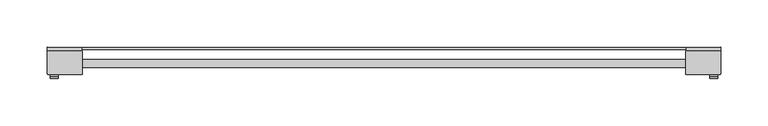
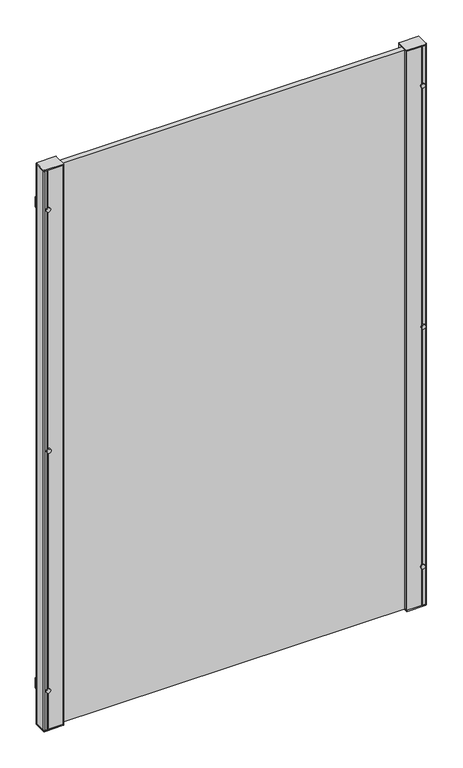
"""IFC4 building model written with IfcOpenShell, lengths in millimetres: railing geometry, F-Line Gotland 1,1m."""

from ifc_helpers import new_model, si_unit, point, frame, frame_2d, origin, place, context, project, spatial, polyline, circle_curve, trimmed, segment, composite_curve, outline, extrude, source, transform, mapped, element, save
from ifc_brep_helpers import plane_surface, cylinder_surface, advanced_brep


def railing_7a961b98(model_context):
    return source(origin(), model_context, "Body", "SolidModel", [
        extrude(outline(polyline([(-8389.9452678, -1855.606973), (-8389.9452678, -1853.7432901), (-7709.9452678, -1853.7432901), (-7709.9452678, -1855.606973), (-8389.9452678, -1855.606973)])), frame((0.0, 0.0, 500.0), z_axis=(0.0, 0.0, 1.0), x_axis=(1.0, 0.0, 0.0)), (0.0, 0.0, 1.0), 1.1703418),
        extrude(outline(polyline([(-8389.9452678, -1875.0913559), (-8389.9452678, -1866.3313559), (-7709.9452678, -1866.3313559), (-7709.9452678, -1875.0913559), (-8389.9452678, -1875.0913559)])), frame((0.0, 0.0, 500.0), z_axis=(0.0, 0.0, 1.0), x_axis=(1.0, 0.0, 0.0)), (0.0, 0.0, 1.0), 1099.0),
        extrude(outline(composite_curve([segment(trimmed(circle_curve(frame_2d((0.0, 4.0)), 4.0), [point((0.0, 8.0))], [point((0.0, 0.0))], False, "CARTESIAN"), True, "CONTINUOUS"), segment(trimmed(circle_curve(frame_2d((0.0, 4.0)), 4.0), [point((0.0, 0.0))], [point((0.0, 8.0))], False, "CARTESIAN"), True, "CONTINUOUS")], self_intersect=False)), frame((-7705.3241105, -1886.2113714, 1050.5851709), z_axis=(0.007850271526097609, 0.9999691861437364, 0.0), x_axis=(0.0, 0.0, 1.0)), (0.0, 0.0, 1.0), 2.0),
        extrude(outline(composite_curve([segment(trimmed(circle_curve(frame_2d((0.0, 4.0024314)), 4.0024314), [point((0.0, 8.0048629))], [point((0.0, 0.0))], False, "CARTESIAN"), True, "CONTINUOUS"), segment(trimmed(circle_curve(frame_2d((0.0, 4.0024314)), 4.0024314), [point((0.0, 0.0))], [point((0.0, 8.0048629))], False, "CARTESIAN"), True, "CONTINUOUS")], self_intersect=False)), frame((-7697.3214674, -1884.2741346, 577.9289095), z_axis=(0.007850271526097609, 0.9999691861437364, 0.0), x_axis=(0.0, 0.0, -1.0)), (0.0, 0.0, 1.0), 2.0),
        extrude(outline(polyline([(-7694.161237, -1853.2011524), (-7694.1298359, -1857.2010291), (-7730.442648, -1857.4861033), (-7730.4740491, -1853.4862266), (-7694.161237, -1853.2011524)])), frame((0.0, 0.0, 567.9289095), z_axis=(0.0, 0.0, 1.0), x_axis=(1.0, 0.0, 0.0)), (0.0, 0.0, 1.0), 20.0),
        extrude(outline(composite_curve([segment(polyline([(-7730.2488576, -1857.2515483), (-7695.1003595, -1857.2515483)]), True, "CONTINUOUS"), segment(trimmed(circle_curve(frame_2d((-7695.4452678, -1858.7113559)), 1.5), [point((-7695.1003595, -1857.2515483))], [point((-7693.9452678, -1858.7113559))], False, "CARTESIAN"), True, "CONTINUOUS"), segment(polyline([(-7693.9452678, -1858.7113559), (-7693.9452678, -1880.7113559)]), True, "CONTINUOUS"), segment(trimmed(circle_curve(frame_2d((-7695.4452678, -1880.7113559)), 1.5), [point((-7693.9452678, -1880.7113559))], [point((-7695.4452678, -1882.2113559))], False, "CARTESIAN"), True, "CONTINUOUS"), segment(polyline([(-7695.4452678, -1882.2113559), (-7730.4452678, -1882.2113559)]), True, "CONTINUOUS"), segment(trimmed(circle_curve(frame_2d((-7730.4452678, -1881.7113559)), 0.5), [point((-7730.4452678, -1882.2113559))], [point((-7730.9452678, -1881.7113559))], False, "CARTESIAN"), True, "CONTINUOUS"), segment(polyline([(-7730.9452678, -1881.7113559), (-7730.9452678, -1857.7113559)]), True, "CONTINUOUS"), segment(trimmed(circle_curve(frame_2d((-7730.4452678, -1857.7113559)), 0.5), [point((-7730.9452678, -1857.7113559))], [point((-7730.2488576, -1857.2515483))], False, "CARTESIAN"), True, "CONTINUOUS")], self_intersect=False)), frame((0.0, 0.0, 499.1703418), z_axis=(0.0, 0.0, 1.0), x_axis=(1.0, 0.0, 0.0)), (0.0, 0.0, 1.0), 2.0),
        extrude(outline(composite_curve([segment(polyline([(-7730.2488576, -1857.2515483), (-7695.1003595, -1857.2515483)]), True, "CONTINUOUS"), segment(trimmed(circle_curve(frame_2d((-7695.4452678, -1858.7113559)), 1.5), [point((-7695.1003595, -1857.2515483))], [point((-7693.9452678, -1858.7113559))], False, "CARTESIAN"), True, "CONTINUOUS"), segment(polyline([(-7693.9452678, -1858.7113559), (-7693.9452678, -1880.7113559)]), True, "CONTINUOUS"), segment(trimmed(circle_curve(frame_2d((-7695.4452678, -1880.7113559)), 1.5), [point((-7693.9452678, -1880.7113559))], [point((-7695.4452678, -1882.2113559))], False, "CARTESIAN"), True, "CONTINUOUS"), segment(polyline([(-7695.4452678, -1882.2113559), (-7730.4452678, -1882.2113559)]), True, "CONTINUOUS"), segment(trimmed(circle_curve(frame_2d((-7730.4452678, -1881.7113559)), 0.5), [point((-7730.4452678, -1882.2113559))], [point((-7730.9452678, -1881.7113559))], False, "CARTESIAN"), True, "CONTINUOUS"), segment(polyline([(-7730.9452678, -1881.7113559), (-7730.9452678, -1857.7113559)]), True, "CONTINUOUS"), segment(trimmed(circle_curve(frame_2d((-7730.4452678, -1857.7113559)), 0.5), [point((-7730.9452678, -1857.7113559))], [point((-7730.2488576, -1857.2515483))], False, "CARTESIAN"), True, "CONTINUOUS")], self_intersect=False)), frame((0.0, 0.0, 1600.0), z_axis=(0.0, 0.0, 1.0), x_axis=(1.0, 0.0, 0.0)), (0.0, 0.0, 1.0), 2.0),
        extrude(outline(composite_curve([segment(trimmed(circle_curve(frame_2d((0.0, 4.0024314)), 4.0024314), [point((0.0, 8.0048629))], [point((0.0, 0.0))], False, "CARTESIAN"), True, "CONTINUOUS"), segment(trimmed(circle_curve(frame_2d((0.0, 4.0024314)), 4.0024314), [point((0.0, 0.0))], [point((0.0, 8.0048629))], False, "CARTESIAN"), True, "CONTINUOUS")], self_intersect=False)), frame((-7697.3214674, -1884.2741346, 1523.2414322), z_axis=(0.007850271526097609, 0.9999691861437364, 0.0), x_axis=(0.0, 0.0, -1.0)), (0.0, 0.0, 1.0), 2.0),
        extrude(outline(polyline([(-7694.161237, -1853.2011524), (-7694.1298359, -1857.2010291), (-7730.442648, -1857.4861033), (-7730.4740491, -1853.4862266), (-7694.161237, -1853.2011524)])), frame((0.0, 0.0, 1513.2414322), z_axis=(0.0, 0.0, 1.0), x_axis=(1.0, 0.0, 0.0)), (0.0, 0.0, 1.0), 20.0),
        advanced_brep(
        [(-7695.4452678, -1857.2113559, 1600.0), (-7700.5649812, -1857.2515483, 1600.0), (-7701.2866044, -1857.9731715, 1600.0), (-7702.4179915, -1857.2515483, 1600.0), (-7730.2488576, -1857.2515483, 1600.0), (-7730.9452678, -1857.7113559, 1600.0), (-7730.9452678, -1864.9512496, 1600.0), (-7712.4438937, -1864.9512496, 1600.0), (-7712.4438937, -1874.4712495, 1600.0), (-7730.9452678, -1874.4712495, 1600.0), (-7730.9452678, -1881.7113559, 1600.0), (-7730.4452678, -1882.2113559, 1600.0), (-7702.4810066, -1882.2113559, 1600.0), (-7701.2866044, -1881.4495403, 1600.0), (-7700.5649812, -1882.1711635, 1600.0), (-7695.4452678, -1882.2113559, 1600.0), (-7693.9452678, -1880.7113559, 1600.0), (-7693.9452678, -1858.7113559, 1600.0), (-7695.4452678, -1857.2113559, 501.1703418), (-7693.9452678, -1858.7113559, 501.1703418), (-7693.9452678, -1880.7113559, 501.1703418), (-7695.4452678, -1882.2113559, 501.1703418), (-7700.5649812, -1882.1711635, 501.1703418), (-7701.2866044, -1881.4495403, 501.1703418), (-7702.4810066, -1882.2113559, 501.1703418), (-7730.4452678, -1882.2113559, 501.1703418), (-7730.9452678, -1881.7113559, 501.1703418), (-7730.9452678, -1874.4712495, 501.1703418), (-7712.4438937, -1874.4712495, 501.1703418), (-7712.4438937, -1864.9512496, 501.1703418), (-7730.9452678, -1864.9512496, 501.1703418), (-7730.9452678, -1857.7113559, 501.1703418), (-7730.2488576, -1857.2515483, 501.1703418), (-7702.4810066, -1857.2113559, 501.1703418), (-7701.2866044, -1857.9731715, 501.1703418), (-7700.4149812, -1857.2113559, 501.1703418)],
        [
            (0, 1),
            (1, 2),
            (2, 3),
            (3, 4),
            (4, 5, circle_curve(frame((-7730.4452678, -1857.7113559, 1600.0), z_axis=(0.0, 0.0, 1.0), x_axis=(0.00014726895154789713, 0.9999999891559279, 0.0)), 0.5)),
            (5, 6),
            (6, 7),
            (7, 8),
            (8, 9),
            (9, 10),
            (10, 11, circle_curve(frame((-7730.4452678, -1881.7113559, 1600.0), z_axis=(0.0, 0.0, 1.0), x_axis=(0.00014726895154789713, 0.9999999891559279, 0.0)), 0.5)),
            (11, 12),
            (12, 13),
            (13, 14),
            (14, 15),
            (15, 16, circle_curve(frame((-7695.4452678, -1880.7113559, 1600.0), z_axis=(0.0, 0.0, 1.0), x_axis=(0.00014726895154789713, 0.9999999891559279, 0.0)), 1.5)),
            (16, 17),
            (17, 0, circle_curve(frame((-7695.4452678, -1858.7113559, 1600.0), z_axis=(0.0, 0.0, 1.0), x_axis=(0.00014726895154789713, 0.9999999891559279, 0.0)), 1.5)),
            (18, 19, circle_curve(frame((-7695.4452678, -1858.7113559, 501.1703418), z_axis=(0.0, 0.0, -1.0), x_axis=(0.00014726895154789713, 0.9999999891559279, 0.0)), 1.5)),
            (19, 20),
            (20, 21, circle_curve(frame((-7695.4452678, -1880.7113559, 501.1703418), z_axis=(0.0, 0.0, -1.0), x_axis=(0.00014726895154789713, 0.9999999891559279, 0.0)), 1.5)),
            (21, 22),
            (22, 23),
            (23, 24),
            (24, 25),
            (25, 26, circle_curve(frame((-7730.4452678, -1881.7113559, 501.1703418), z_axis=(0.0, 0.0, -1.0), x_axis=(0.00014726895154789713, 0.9999999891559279, 0.0)), 0.5)),
            (26, 27),
            (27, 28),
            (28, 29),
            (29, 30),
            (30, 31),
            (31, 32, circle_curve(frame((-7730.4452678, -1857.7113559, 501.1703418), z_axis=(0.0, 0.0, -1.0), x_axis=(0.00014726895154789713, 0.9999999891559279, 0.0)), 0.5)),
            (32, 33),
            (33, 34),
            (34, 35),
            (35, 18),
            (17, 19),
            (18, 0),
            (16, 20),
            (15, 21),
            (14, 22),
            (13, 23),
            (12, 24),
            (11, 25),
            (10, 26),
            (9, 27),
            (8, 28),
            (7, 29),
            (6, 30),
            (5, 31),
            (4, 32),
            (3, 33),
            (2, 34),
            (1, 35),
        ],
        [
            plane_surface(frame((-7695.4450469, -1857.2113559, 1600.0), z_axis=(0.0, 0.0, 1.0), x_axis=(0.9999999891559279, -0.00014726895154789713, 0.0))),
            plane_surface(frame((-7695.4450469, -1857.2113559, 501.1703418), z_axis=(0.0, 0.0, -1.0), x_axis=(-0.9999999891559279, 0.00014726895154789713, 0.0))),
            cylinder_surface(frame((-7695.4452678, -1858.7113559, 501.1703418), z_axis=(0.0, 0.0, 1.0), x_axis=(0.00014726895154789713, 0.9999999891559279, 0.0)), 1.5),
            plane_surface(frame((-7693.9452678, -1858.7113559, 1600.0), z_axis=(1.0, 1.92900901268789e-12, 0.0), x_axis=(0.0, 0.0, -1.0))),
            cylinder_surface(frame((-7695.4452678, -1880.7113559, 501.1703418), z_axis=(0.0, 0.0, 1.0), x_axis=(0.00014726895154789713, 0.9999999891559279, 0.0)), 1.5),
            plane_surface(frame((-7695.4452678, -1882.2113559, 1600.0), z_axis=(-0.007850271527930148, -0.9999691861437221, 0.0), x_axis=(0.0, 0.0, -1.0))),
            plane_surface(frame((-7700.5649812, -1882.1711635, 1600.0), z_axis=(-0.7071067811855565, -0.7071067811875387, 0.0), x_axis=(0.0, 0.0, -1.0))),
            plane_surface(frame((-7701.2866044, -1881.4495403, 1600.0), z_axis=(0.5377501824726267, -0.8431042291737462, 0.0), x_axis=(0.0, 0.0, -1.0))),
            plane_surface(frame((-7702.4810066, -1882.2113559, 1600.0), z_axis=(1.929105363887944e-12, -1.0, 0.0), x_axis=(0.0, 0.0, -1.0))),
            cylinder_surface(frame((-7730.4452678, -1881.7113559, 501.1703418), z_axis=(0.0, 0.0, 1.0), x_axis=(0.00014726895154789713, 0.9999999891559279, 0.0)), 0.5),
            plane_surface(frame((-7730.9452678, -1881.7113559, 1600.0), z_axis=(-1.0, -1.929219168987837e-12, 0.0), x_axis=(0.0, 0.0, -1.0))),
            plane_surface(frame((-7730.9452678, -1874.4712495, 1600.0), z_axis=(-1.928971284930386e-12, 1.0, 0.0), x_axis=(0.0, 0.0, -1.0))),
            plane_surface(frame((-7712.4438937, -1874.4712495, 1600.0), z_axis=(-1.0, -1.92890766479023e-12, 0.0), x_axis=(0.0, 0.0, -1.0))),
            plane_surface(frame((-7712.4438937, -1864.9512496, 1600.0), z_axis=(1.9289998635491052e-12, -1.0, 0.0), x_axis=(0.0, 0.0, -1.0))),
            plane_surface(frame((-7730.9452678, -1864.9512496, 1600.0), z_axis=(-1.0, -1.9292760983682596e-12, 0.0), x_axis=(0.0, 0.0, -1.0))),
            cylinder_surface(frame((-7730.4452678, -1857.7113559, 501.1703418), z_axis=(0.0, 0.0, 1.0), x_axis=(0.00014726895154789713, 0.9999999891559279, 0.0)), 0.5),
            plane_surface(frame((-7730.2488576, -1857.2515483, 1600.0), z_axis=(-1.928989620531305e-12, 1.0, 0.0), x_axis=(0.0, 0.0, -1.0))),
            plane_surface(frame((-7702.4810066, -1857.2113559, 1600.0), z_axis=(0.5377501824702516, 0.8431042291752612, 0.0), x_axis=(0.0, 0.0, -1.0))),
            plane_surface(frame((-7701.2866044, -1857.9731715, 1600.0), z_axis=(-0.7071067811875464, 0.7071067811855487, 0.0), x_axis=(0.0, 0.0, -1.0))),
            plane_surface(frame((-7700.4149812, -1857.2113559, 1600.0), z_axis=(-1.929091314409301e-12, 1.0, 0.0), x_axis=(0.0, 0.0, -1.0))),
        ],
        [
            (0, [[1, 2, 3, 4, 5, 6, 7, 8, 9, 10, 11, 12, 13, 14, 15, 16, 17, 18]]),
            (1, [[19, 20, 21, 22, 23, 24, 25, 26, 27, 28, 29, 30, 31, 32, 33, 34, 35, 36]]),
            (2, [[37, -19, 38, -18]]),
            (3, [[39, -20, -37, -17]]),
            (4, [[40, -21, -39, -16]]),
            (5, [[41, -22, -40, -15]]),
            (6, [[42, -23, -41, -14]]),
            (7, [[43, -24, -42, -13]]),
            (8, [[44, -25, -43, -12]]),
            (9, [[45, -26, -44, -11]]),
            (10, [[46, -27, -45, -10]]),
            (11, [[47, -28, -46, -9]]),
            (12, [[48, -29, -47, -8]]),
            (13, [[49, -30, -48, -7]]),
            (14, [[50, -31, -49, -6]]),
            (15, [[51, -32, -50, -5]]),
            (16, [[52, -33, -51, -4]]),
            (17, [[53, -34, -52, -3]]),
            (18, [[54, -35, -53, -2]]),
            (19, [[-38, -36, -54, -1]]),
        ],
    ),
        extrude(outline(composite_curve([segment(trimmed(circle_curve(frame_2d((0.0, 4.0000001)), 4.0), [point((0.0, 8.0))], [point((0.0, 0.0))], False, "CARTESIAN"), True, "CONTINUOUS"), segment(trimmed(circle_curve(frame_2d((0.0, 4.0000001)), 4.0), [point((0.0, 0.0))], [point((0.0, 8.0))], False, "CARTESIAN"), True, "CONTINUOUS")], self_intersect=False)), frame((-8402.5661785, -1886.2741736, 1050.5851709), z_axis=(-0.00785027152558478, 0.9999691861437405, 0.0), x_axis=(0.0, 0.0, 1.0)), (0.0, 0.0, 1.0), 2.0),
        extrude(outline(composite_curve([segment(trimmed(circle_curve(frame_2d((0.0, 4.0024314)), 4.0024314), [point((0.0, 8.0048629))], [point((0.0, 0.0))], False, "CARTESIAN"), True, "CONTINUOUS"), segment(trimmed(circle_curve(frame_2d((0.0, 4.0024314)), 4.0024314), [point((0.0, 0.0))], [point((0.0, 8.0048629))], False, "CARTESIAN"), True, "CONTINUOUS")], self_intersect=False)), frame((-8402.5690681, -1884.2741346, 577.9289095), z_axis=(-0.00785027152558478, 0.9999691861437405, 0.0), x_axis=(0.0, 0.0, 1.0)), (0.0, 0.0, 1.0), 2.0),
        extrude(outline(polyline([(-8369.4164864, -1853.4862266), (-8369.4478875, -1857.4861033), (-8405.7606996, -1857.2010291), (-8405.7292985, -1853.2011524), (-8369.4164864, -1853.4862266)])), frame((0.0, 0.0, 567.9289095), z_axis=(0.0, 0.0, 1.0), x_axis=(1.0, 0.0, 0.0)), (0.0, 0.0, 1.0), 20.0),
        extrude(outline(composite_curve([segment(trimmed(circle_curve(frame_2d((0.0, 4.0024314)), 4.0024314), [point((0.0, 8.0048629))], [point((0.0, 0.0))], False, "CARTESIAN"), True, "CONTINUOUS"), segment(trimmed(circle_curve(frame_2d((0.0, 4.0024314)), 4.0024314), [point((0.0, 0.0))], [point((0.0, 8.0048629))], False, "CARTESIAN"), True, "CONTINUOUS")], self_intersect=False)), frame((-8402.5690681, -1884.2741346, 1523.2414322), z_axis=(-0.00785027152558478, 0.9999691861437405, 0.0), x_axis=(0.0, 0.0, 1.0)), (0.0, 0.0, 1.0), 2.0),
        extrude(outline(polyline([(-8369.4164864, -1853.4862266), (-8369.4478875, -1857.4861033), (-8405.7606996, -1857.2010291), (-8405.7292985, -1853.2011524), (-8369.4164864, -1853.4862266)])), frame((0.0, 0.0, 1513.2414322), z_axis=(0.0, 0.0, 1.0), x_axis=(1.0, 0.0, 0.0)), (0.0, 0.0, 1.0), 20.0),
        extrude(outline(composite_curve([segment(polyline([(-8369.6416779, -1882.1711635), (-8404.790176, -1882.1711635)]), True, "CONTINUOUS"), segment(trimmed(circle_curve(frame_2d((-8404.4452678, -1880.7113559)), 1.5), [point((-8404.790176, -1882.1711635))], [point((-8405.9452678, -1880.7113559))], False, "CARTESIAN"), True, "CONTINUOUS"), segment(polyline([(-8405.9452678, -1880.7113559), (-8405.9452678, -1858.7113559)]), True, "CONTINUOUS"), segment(trimmed(circle_curve(frame_2d((-8404.4452678, -1858.7113559)), 1.5), [point((-8405.9452678, -1858.7113559))], [point((-8404.4452678, -1857.2113559))], False, "CARTESIAN"), True, "CONTINUOUS"), segment(polyline([(-8404.4452678, -1857.2113559), (-8369.4452678, -1857.2113559)]), True, "CONTINUOUS"), segment(trimmed(circle_curve(frame_2d((-8369.4452678, -1857.7113559)), 0.5), [point((-8369.4452678, -1857.2113559))], [point((-8368.9452678, -1857.7113559))], False, "CARTESIAN"), True, "CONTINUOUS"), segment(polyline([(-8368.9452678, -1857.7113559), (-8368.9452678, -1881.7113559)]), True, "CONTINUOUS"), segment(trimmed(circle_curve(frame_2d((-8369.4452678, -1881.7113559)), 0.5), [point((-8368.9452678, -1881.7113559))], [point((-8369.6416779, -1882.1711635))], False, "CARTESIAN"), True, "CONTINUOUS")], self_intersect=False)), frame((0.0, 0.0, 499.1703418), z_axis=(0.0, 0.0, 1.0), x_axis=(1.0, 0.0, 0.0)), (0.0, 0.0, 1.0), 2.0),
        extrude(outline(composite_curve([segment(polyline([(-8369.6416779, -1882.1711635), (-8404.790176, -1882.1711635)]), True, "CONTINUOUS"), segment(trimmed(circle_curve(frame_2d((-8404.4452678, -1880.7113559)), 1.5), [point((-8404.790176, -1882.1711635))], [point((-8405.9452678, -1880.7113559))], False, "CARTESIAN"), True, "CONTINUOUS"), segment(polyline([(-8405.9452678, -1880.7113559), (-8405.9452678, -1858.7113559)]), True, "CONTINUOUS"), segment(trimmed(circle_curve(frame_2d((-8404.4452678, -1858.7113559)), 1.5), [point((-8405.9452678, -1858.7113559))], [point((-8404.4452678, -1857.2113559))], False, "CARTESIAN"), True, "CONTINUOUS"), segment(polyline([(-8404.4452678, -1857.2113559), (-8369.4452678, -1857.2113559)]), True, "CONTINUOUS"), segment(trimmed(circle_curve(frame_2d((-8369.4452678, -1857.7113559)), 0.5), [point((-8369.4452678, -1857.2113559))], [point((-8368.9452678, -1857.7113559))], False, "CARTESIAN"), True, "CONTINUOUS"), segment(polyline([(-8368.9452678, -1857.7113559), (-8368.9452678, -1881.7113559)]), True, "CONTINUOUS"), segment(trimmed(circle_curve(frame_2d((-8369.4452678, -1881.7113559)), 0.5), [point((-8368.9452678, -1881.7113559))], [point((-8369.6416779, -1882.1711635))], False, "CARTESIAN"), True, "CONTINUOUS")], self_intersect=False)), frame((0.0, 0.0, 1600.0), z_axis=(0.0, 0.0, 1.0), x_axis=(1.0, 0.0, 0.0)), (0.0, 0.0, 1.0), 2.0),
        advanced_brep(
        [(-8404.4452678, -1882.2113559, 1600.0), (-8399.3255543, -1882.1711635, 1600.0), (-8398.6039311, -1881.4495403, 1600.0), (-8397.472544, -1882.1711635, 1600.0), (-8369.6416779, -1882.1711635, 1600.0), (-8368.9452678, -1881.7113559, 1600.0), (-8368.9452678, -1874.4714623, 1600.0), (-8387.4466418, -1874.4714623, 1600.0), (-8387.4466418, -1864.9514623, 1600.0), (-8368.9452678, -1864.9514623, 1600.0), (-8368.9452678, -1857.7113559, 1600.0), (-8369.4452678, -1857.2113559, 1600.0), (-8397.4095289, -1857.2113559, 1600.0), (-8398.6039311, -1857.9731715, 1600.0), (-8399.3255543, -1857.2515483, 1600.0), (-8404.4452678, -1857.2113559, 1600.0), (-8405.9452678, -1858.7113559, 1600.0), (-8405.9452678, -1880.7113559, 1600.0), (-8404.4452678, -1882.2113559, 501.1703418), (-8405.9452678, -1880.7113559, 501.1703418), (-8405.9452678, -1858.7113559, 501.1703418), (-8404.4452678, -1857.2113559, 501.1703418), (-8399.3255543, -1857.2515483, 501.1703418), (-8398.6039311, -1857.9731715, 501.1703418), (-8397.4095289, -1857.2113559, 501.1703418), (-8369.4452678, -1857.2113559, 501.1703418), (-8368.9452678, -1857.7113559, 501.1703418), (-8368.9452678, -1864.9514623, 501.1703418), (-8387.4466418, -1864.9514623, 501.1703418), (-8387.4466418, -1874.4714623, 501.1703418), (-8368.9452678, -1874.4714623, 501.1703418), (-8368.9452678, -1881.7113559, 501.1703418), (-8369.6416779, -1882.1711635, 501.1703418), (-8397.4095289, -1882.2113559, 501.1703418), (-8398.6039311, -1881.4495403, 501.1703418), (-8399.4755543, -1882.2113559, 501.1703418)],
        [
            (0, 1),
            (1, 2),
            (2, 3),
            (3, 4),
            (4, 5, circle_curve(frame((-8369.4452678, -1881.7113559, 1600.0), z_axis=(0.0, 0.0, 1.0), x_axis=(-0.00014726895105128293, -0.999999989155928, 0.0)), 0.5)),
            (5, 6),
            (6, 7),
            (7, 8),
            (8, 9),
            (9, 10),
            (10, 11, circle_curve(frame((-8369.4452678, -1857.7113559, 1600.0), z_axis=(0.0, 0.0, 1.0), x_axis=(-0.00014726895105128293, -0.999999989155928, 0.0)), 0.5)),
            (11, 12),
            (12, 13),
            (13, 14),
            (14, 15),
            (15, 16, circle_curve(frame((-8404.4452678, -1858.7113559, 1600.0), z_axis=(0.0, 0.0, 1.0), x_axis=(-0.00014726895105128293, -0.999999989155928, 0.0)), 1.5)),
            (16, 17),
            (17, 0, circle_curve(frame((-8404.4452678, -1880.7113559, 1600.0), z_axis=(0.0, 0.0, 1.0), x_axis=(-0.00014726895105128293, -0.999999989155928, 0.0)), 1.5)),
            (18, 19, circle_curve(frame((-8404.4452678, -1880.7113559, 501.1703418), z_axis=(0.0, 0.0, -1.0), x_axis=(-0.00014726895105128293, -0.999999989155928, 0.0)), 1.5)),
            (19, 20),
            (20, 21, circle_curve(frame((-8404.4452678, -1858.7113559, 501.1703418), z_axis=(0.0, 0.0, -1.0), x_axis=(-0.00014726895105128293, -0.999999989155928, 0.0)), 1.5)),
            (21, 22),
            (22, 23),
            (23, 24),
            (24, 25),
            (25, 26, circle_curve(frame((-8369.4452678, -1857.7113559, 501.1703418), z_axis=(0.0, 0.0, -1.0), x_axis=(-0.00014726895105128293, -0.999999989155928, 0.0)), 0.5)),
            (26, 27),
            (27, 28),
            (28, 29),
            (29, 30),
            (30, 31),
            (31, 32, circle_curve(frame((-8369.4452678, -1881.7113559, 501.1703418), z_axis=(0.0, 0.0, -1.0), x_axis=(-0.00014726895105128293, -0.999999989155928, 0.0)), 0.5)),
            (32, 33),
            (33, 34),
            (34, 35),
            (35, 18),
            (17, 19),
            (18, 0),
            (16, 20),
            (15, 21),
            (14, 22),
            (13, 23),
            (12, 24),
            (11, 25),
            (10, 26),
            (9, 27),
            (8, 28),
            (7, 29),
            (6, 30),
            (5, 31),
            (4, 32),
            (3, 33),
            (2, 34),
            (1, 35),
        ],
        [
            plane_surface(frame((-8404.4454887, -1882.2113559, 1600.0), z_axis=(0.0, 0.0, 1.0), x_axis=(-0.999999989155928, 0.00014726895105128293, 0.0))),
            plane_surface(frame((-8404.4454887, -1882.2113559, 501.1703418), z_axis=(0.0, 0.0, -1.0), x_axis=(0.999999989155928, -0.00014726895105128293, 0.0))),
            cylinder_surface(frame((-8404.4452678, -1880.7113559, 501.1703418), z_axis=(0.0, 0.0, 1.0), x_axis=(-0.00014726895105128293, -0.999999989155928, 0.0)), 1.5),
            plane_surface(frame((-8405.9452678, -1880.7113559, 1600.0), z_axis=(-1.0, -2.4256333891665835e-12, 0.0), x_axis=(0.0, 0.0, -1.0))),
            cylinder_surface(frame((-8404.4452678, -1858.7113559, 501.1703418), z_axis=(0.0, 0.0, 1.0), x_axis=(-0.00014726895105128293, -0.999999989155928, 0.0)), 1.5),
            plane_surface(frame((-8404.4452678, -1857.2113559, 1600.0), z_axis=(0.007850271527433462, 0.9999691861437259, 0.0), x_axis=(0.0, 0.0, -1.0))),
            plane_surface(frame((-8399.3255543, -1857.2515483, 1600.0), z_axis=(0.7071067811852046, 0.7071067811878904, 0.0), x_axis=(0.0, 0.0, -1.0))),
            plane_surface(frame((-8398.6039311, -1857.9731715, 1600.0), z_axis=(-0.5377501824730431, 0.8431042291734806, 0.0), x_axis=(0.0, 0.0, -1.0))),
            plane_surface(frame((-8397.4095289, -1857.2113559, 1600.0), z_axis=(-2.425776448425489e-12, 1.0, 0.0), x_axis=(0.0, 0.0, -1.0))),
            cylinder_surface(frame((-8369.4452678, -1857.7113559, 501.1703418), z_axis=(0.0, 0.0, 1.0), x_axis=(-0.00014726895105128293, -0.999999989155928, 0.0)), 0.5),
            plane_surface(frame((-8368.9452678, -1857.7113559, 1600.0), z_axis=(1.0, 2.4258219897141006e-12, 0.0), x_axis=(0.0, 0.0, -1.0))),
            plane_surface(frame((-8368.9452678, -1864.9514623, 1600.0), z_axis=(2.4255819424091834e-12, -1.0, 0.0), x_axis=(0.0, 0.0, -1.0))),
            plane_surface(frame((-8387.4466418, -1864.9514623, 1600.0), z_axis=(1.0, 2.4256601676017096e-12, 0.0), x_axis=(0.0, 0.0, -1.0))),
            plane_surface(frame((-8387.4466418, -1874.4714623, 1600.0), z_axis=(-2.4256105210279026e-12, 1.0, 0.0), x_axis=(0.0, 0.0, -1.0))),
            plane_surface(frame((-8368.9452678, -1874.4714623, 1600.0), z_axis=(1.0, 2.4258935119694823e-12, 0.0), x_axis=(0.0, 0.0, -1.0))),
            cylinder_surface(frame((-8369.4452678, -1881.7113559, 501.1703418), z_axis=(0.0, 0.0, 1.0), x_axis=(-0.00014726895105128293, -0.999999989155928, 0.0)), 0.5),
            plane_surface(frame((-8369.6416779, -1882.1711635, 1600.0), z_axis=(2.42560382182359e-12, -1.0, 0.0), x_axis=(0.0, 0.0, -1.0))),
            plane_surface(frame((-8397.4095289, -1882.2113559, 1600.0), z_axis=(-0.5377501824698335, -0.8431042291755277, 0.0), x_axis=(0.0, 0.0, -1.0))),
            plane_surface(frame((-8398.6039311, -1881.4495403, 1600.0), z_axis=(0.7071067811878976, -0.7071067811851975, 0.0), x_axis=(0.0, 0.0, -1.0))),
            plane_surface(frame((-8399.4755543, -1882.2113559, 1600.0), z_axis=(2.4257347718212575e-12, -1.0, 0.0), x_axis=(0.0, 0.0, -1.0))),
        ],
        [
            (0, [[1, 2, 3, 4, 5, 6, 7, 8, 9, 10, 11, 12, 13, 14, 15, 16, 17, 18]]),
            (1, [[19, 20, 21, 22, 23, 24, 25, 26, 27, 28, 29, 30, 31, 32, 33, 34, 35, 36]]),
            (2, [[37, -19, 38, -18]]),
            (3, [[39, -20, -37, -17]]),
            (4, [[40, -21, -39, -16]]),
            (5, [[41, -22, -40, -15]]),
            (6, [[42, -23, -41, -14]]),
            (7, [[43, -24, -42, -13]]),
            (8, [[44, -25, -43, -12]]),
            (9, [[45, -26, -44, -11]]),
            (10, [[46, -27, -45, -10]]),
            (11, [[47, -28, -46, -9]]),
            (12, [[48, -29, -47, -8]]),
            (13, [[49, -30, -48, -7]]),
            (14, [[50, -31, -49, -6]]),
            (15, [[51, -32, -50, -5]]),
            (16, [[52, -33, -51, -4]]),
            (17, [[53, -34, -52, -3]]),
            (18, [[54, -35, -53, -2]]),
            (19, [[-38, -36, -54, -1]]),
        ],
    ),
    ])


if __name__ == "__main__":
    model = new_model("IFC4")
    model_context = context("Model", 3, world=origin())
    ifc_project = project(units=[si_unit("LENGTHUNIT", "METRE", prefix="MILLI")], contexts=[model_context])
    site = spatial("IfcSite", under=ifc_project)
    building = spatial("IfcBuilding", under=site)
    placement = place(None, origin())
    railing_shape = railing_7a961b98(model_context)
    element("IfcRailing", 1, ObjectType="F-Line Gotland 1,1m", at=placement, inside=building, context=model_context, shape_type="MappedRepresentation", body=[
        mapped(railing_shape, transform((0.0, 0.0, 0.0), x_axis=(1.0, 0.0, 0.0), y_axis=(0.0, 1.0, 0.0), z_axis=(0.0, 0.0, 1.0))),
    ])
    save(model, "model.ifc")
